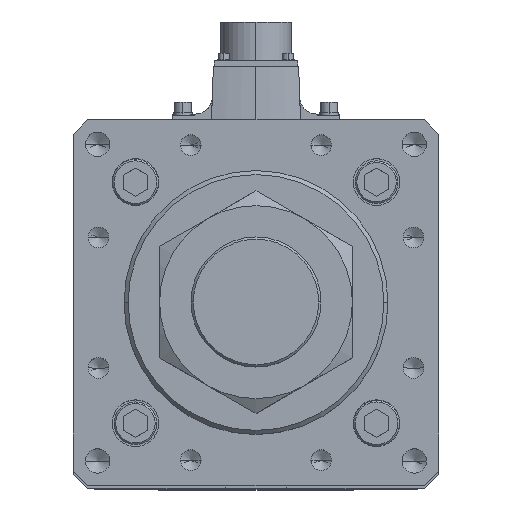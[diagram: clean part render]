
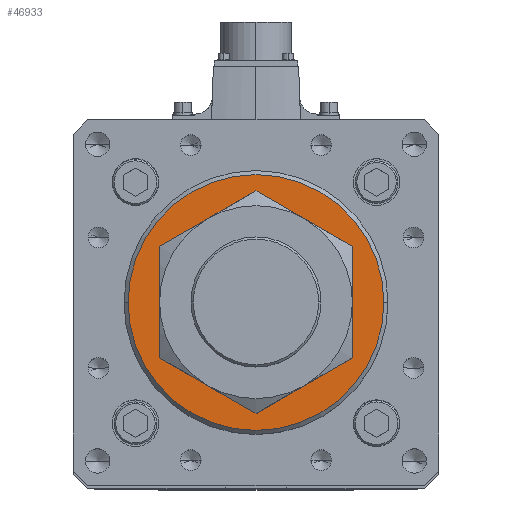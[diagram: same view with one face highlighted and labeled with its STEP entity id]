
A CAD part, top view. The second image highlights one B-rep face of the part: STEP entity #46933.
In plain terms, the highlighted planar face has unit normal (0, 0, 1).
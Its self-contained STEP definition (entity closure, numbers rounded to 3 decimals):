
#2618 = DIRECTION ( 'NONE',  ( 1., 0., 0. ) ) ;
#6085 = DIRECTION ( 'NONE',  ( 1., 0., 0. ) ) ;
#6143 = ORIENTED_EDGE ( 'NONE', *, *, #19959, .T. ) ;
#6506 = VERTEX_POINT ( 'NONE', #19521 ) ;
#6645 = DIRECTION ( 'NONE',  ( 0., 0., 1. ) ) ;
#7699 = CARTESIAN_POINT ( 'NONE',  ( 63., 0., 912. ) ) ;
#10321 = FACE_OUTER_BOUND ( 'NONE', #42465, .T. ) ;
#12936 = FACE_BOUND ( 'NONE', #13314, .T. ) ;
#13314 = EDGE_LOOP ( 'NONE', ( #27267, #21392 ) ) ;
#14705 = AXIS2_PLACEMENT_3D ( 'NONE', #32283, #6645, #6085 ) ;
#14988 = CIRCLE ( 'NONE', #50214, 40.5 ) ;
#19299 = ORIENTED_EDGE ( 'NONE', *, *, #44193, .T. ) ;
#19315 = CARTESIAN_POINT ( 'NONE',  ( 0., 0., 912. ) ) ;
#19521 = CARTESIAN_POINT ( 'NONE',  ( -63., 0., 912. ) ) ;
#19959 = EDGE_CURVE ( 'NONE', #6506, #37681, #50755, .T. ) ;
#21392 = ORIENTED_EDGE ( 'NONE', *, *, #48866, .T. ) ;
#22300 = DIRECTION ( 'NONE',  ( 1., 0., 0. ) ) ;
#23154 = VERTEX_POINT ( 'NONE', #46560 ) ;
#23335 = DIRECTION ( 'NONE',  ( 1., 0., 0. ) ) ;
#23789 = DIRECTION ( 'NONE',  ( 0., 0., -1. ) ) ;
#25710 = CIRCLE ( 'NONE', #14705, 63. ) ;
#27267 = ORIENTED_EDGE ( 'NONE', *, *, #52105, .T. ) ;
#27418 = DIRECTION ( 'NONE',  ( 0., 0., 1. ) ) ;
#32283 = CARTESIAN_POINT ( 'NONE',  ( 0., 0., 912. ) ) ;
#32444 = CARTESIAN_POINT ( 'NONE',  ( 40.5, 0., 912. ) ) ;
#35381 = CARTESIAN_POINT ( 'NONE',  ( 0., 0., 912. ) ) ;
#36908 = CARTESIAN_POINT ( 'NONE',  ( 0., 0., 912. ) ) ;
#37447 = CIRCLE ( 'NONE', #50846, 40.5 ) ;
#37681 = VERTEX_POINT ( 'NONE', #7699 ) ;
#39969 = DIRECTION ( 'NONE',  ( 0., 0., -1. ) ) ;
#41100 = AXIS2_PLACEMENT_3D ( 'NONE', #48663, #27418, #23335 ) ;
#41723 = DIRECTION ( 'NONE',  ( 0., 0., 1. ) ) ;
#42465 = EDGE_LOOP ( 'NONE', ( #6143, #19299 ) ) ;
#43217 = VERTEX_POINT ( 'NONE', #32444 ) ;
#44193 = EDGE_CURVE ( 'NONE', #37681, #6506, #25710, .T. ) ;
#45288 = PLANE ( 'NONE',  #49818 ) ;
#46005 = DIRECTION ( 'NONE',  ( 1., 0., 0. ) ) ;
#46560 = CARTESIAN_POINT ( 'NONE',  ( -40.5, 0., 912. ) ) ;
#46933 = ADVANCED_FACE ( 'NONE', ( #12936, #10321 ), #45288, .T. ) ;
#48663 = CARTESIAN_POINT ( 'NONE',  ( 0., 0., 912. ) ) ;
#48866 = EDGE_CURVE ( 'NONE', #23154, #43217, #14988, .T. ) ;
#49818 = AXIS2_PLACEMENT_3D ( 'NONE', #36908, #41723, #46005 ) ;
#50214 = AXIS2_PLACEMENT_3D ( 'NONE', #19315, #23789, #2618 ) ;
#50755 = CIRCLE ( 'NONE', #41100, 63. ) ;
#50846 = AXIS2_PLACEMENT_3D ( 'NONE', #35381, #39969, #22300 ) ;
#52105 = EDGE_CURVE ( 'NONE', #43217, #23154, #37447, .T. ) ;
